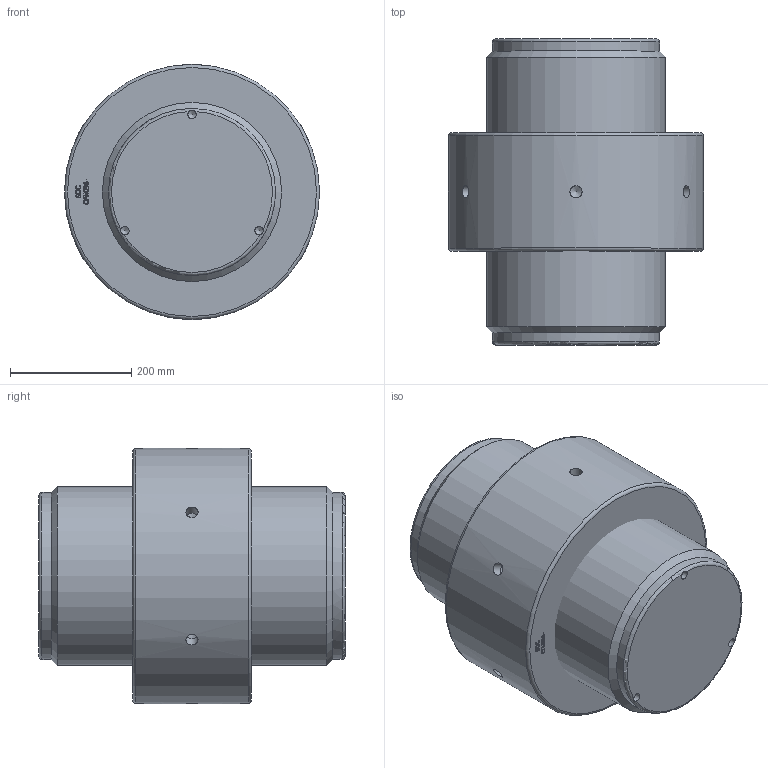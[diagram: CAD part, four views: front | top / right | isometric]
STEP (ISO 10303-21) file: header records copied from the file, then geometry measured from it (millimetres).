
FILE_DESCRIPTION(/* description */ (''),/* implementation_level */ '2;1');
FILE_NAME(/* name */ 'F:\Clienti LS\Redaelli\CYT\CYT\ARRNGEMENT\CYT096 61 061 0.stp',/* time_stamp */ '2021-05-09T08:52:49+02:00',/* author */ ('ranca'),/* organization */ (''),/* preprocessor_version */ 'ST-DEVELOPER v16.13',/* originating_system */ 'Autodesk Inventor 2018',/* authorisation */ '');
FILE_SCHEMA (('AUTOMOTIVE_DESIGN { 1 0 10303 214 3 1 1 }'));
Length unit declared in the file: millimetre
Products named in the file (3): CYT012-61-061-0; CYT012-61-061-0_1; CYT012-61-061-0_DADO
Assembly tree (2 placements, depth 2):
  CYT012-61-061-0
    CYT012-61-061-0_1
    CYT012-61-061-0_DADO
Bounding box: 420 x 504 x 420 mm (x, y, z)
Volume: 48184401.5 mm3; surface area: 1174255 mm2
Topology: 2 solids, 2 shells, 366 faces, 1007 edges, 670 vertices
Faces by surface type: bspline 224, plane 113, cylinder 14, cone 11, torus 4
Full cylindrical faces by diameter (mm): 13.835 x3, 20 x6, 275 x2, 288.505 x1, 295 x1, 420 x1
Entity records: 12750 total; most frequent: CARTESIAN_POINT 5138, ORIENTED_EDGE 1916, EDGE_CURVE 958, DIRECTION 817, VERTEX_POINT 650, LINE 467, VECTOR 467, B_SPLINE_CURVE_WITH_KNOTS 463
